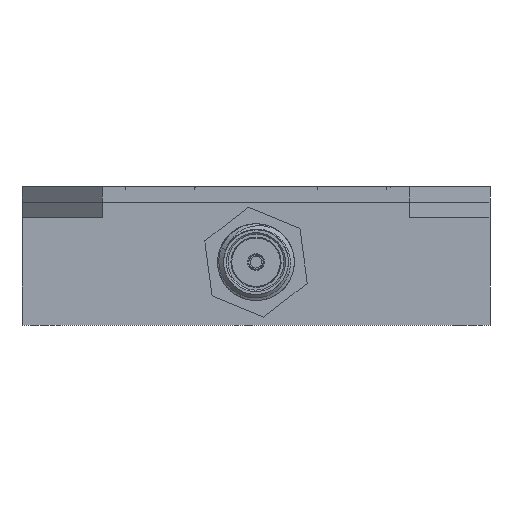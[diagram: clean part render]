
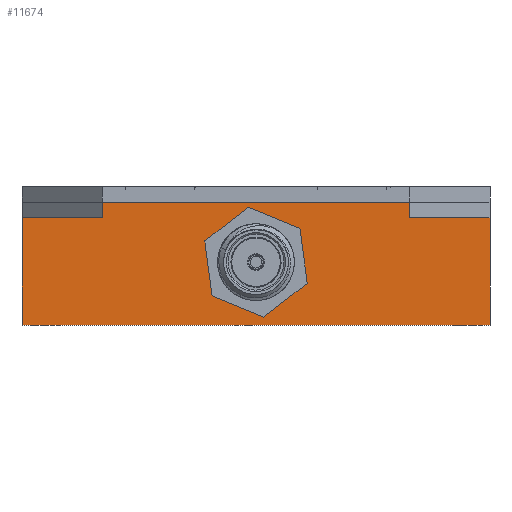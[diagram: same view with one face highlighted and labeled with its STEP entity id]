
A CAD part, left-side view. The second image highlights one B-rep face of the part: STEP entity #11674.
In plain terms, the highlighted planar face has unit normal (-1, 0, 0).
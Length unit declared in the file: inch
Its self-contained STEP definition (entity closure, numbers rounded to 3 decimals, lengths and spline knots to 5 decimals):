
#206 = CARTESIAN_POINT ( 'NONE',  ( -0.885, 0., 0.205 ) ) ;
#886 = DIRECTION ( 'NONE',  ( 0., -1., 0. ) ) ;
#1509 = DIRECTION ( 'NONE',  ( 0., 0., 1. ) ) ;
#1748 = ORIENTED_EDGE ( 'NONE', *, *, #22862, .F. ) ;
#1864 = ORIENTED_EDGE ( 'NONE', *, *, #2905, .T. ) ;
#2537 = FACE_BOUND ( 'NONE', #19027, .T. ) ;
#2669 = FACE_OUTER_BOUND ( 'NONE', #20624, .T. ) ;
#2905 = EDGE_CURVE ( 'NONE', #13190, #22566, #3629, .T. ) ;
#3161 = DIRECTION ( 'NONE',  ( 0., -1., 0. ) ) ;
#3510 = CARTESIAN_POINT ( 'NONE',  ( -0.885, 0., 0.09355 ) ) ;
#3629 = LINE ( 'NONE', #9424, #25242 ) ;
#4175 = VECTOR ( 'NONE', #7777, 39.37008 ) ;
#4185 = LINE ( 'NONE', #24370, #5677 ) ;
#4350 = ORIENTED_EDGE ( 'NONE', *, *, #5721, .F. ) ;
#4518 = EDGE_CURVE ( 'NONE', #17933, #12358, #13459, .T. ) ;
#4930 = CARTESIAN_POINT ( 'NONE',  ( -0.885, 0.76, 0.35 ) ) ;
#5677 = VECTOR ( 'NONE', #21983, 39.37008 ) ;
#5721 = EDGE_CURVE ( 'NONE', #19770, #12919, #7144, .T. ) ;
#5987 = CARTESIAN_POINT ( 'NONE',  ( -0.885, 0., 0.205 ) ) ;
#6062 = CARTESIAN_POINT ( 'NONE',  ( -0.885, -0.76, 0.4 ) ) ;
#6216 = ORIENTED_EDGE ( 'NONE', *, *, #8581, .F. ) ;
#6316 = VERTEX_POINT ( 'NONE', #15190 ) ;
#6449 = ORIENTED_EDGE ( 'NONE', *, *, #24345, .F. ) ;
#6557 = ORIENTED_EDGE ( 'NONE', *, *, #4518, .F. ) ;
#6770 = LINE ( 'NONE', #8613, #17762 ) ;
#7090 = ORIENTED_EDGE ( 'NONE', *, *, #14350, .F. ) ;
#7144 = LINE ( 'NONE', #17429, #15627 ) ;
#7278 = VECTOR ( 'NONE', #9099, 39.37008 ) ;
#7293 = ORIENTED_EDGE ( 'NONE', *, *, #15731, .F. ) ;
#7717 = ORIENTED_EDGE ( 'NONE', *, *, #19056, .T. ) ;
#7777 = DIRECTION ( 'NONE',  ( 0., 0., -1. ) ) ;
#8128 = VERTEX_POINT ( 'NONE', #4930 ) ;
#8581 = EDGE_CURVE ( 'NONE', #13190, #19426, #18854, .T. ) ;
#8613 = CARTESIAN_POINT ( 'NONE',  ( -0.885, 0.76, 0.4 ) ) ;
#8915 = CARTESIAN_POINT ( 'NONE',  ( -0.885, 0.76, 0.35 ) ) ;
#9099 = DIRECTION ( 'NONE',  ( 0., -1., 0. ) ) ;
#9424 = CARTESIAN_POINT ( 'NONE',  ( -0.885, -0.5, 0.35 ) ) ;
#9442 = EDGE_CURVE ( 'NONE', #9980, #6316, #4185, .T. ) ;
#9980 = VERTEX_POINT ( 'NONE', #25529 ) ;
#10542 = PLANE ( 'NONE',  #23465 ) ;
#11164 = VECTOR ( 'NONE', #886, 39.37008 ) ;
#11674 = ADVANCED_FACE ( 'NONE', ( #2537, #2669 ), #10542, .F. ) ;
#12008 = DIRECTION ( 'NONE',  ( -1., 0., 0. ) ) ;
#12160 = DIRECTION ( 'NONE',  ( 0., 0., -1. ) ) ;
#12358 = VERTEX_POINT ( 'NONE', #12571 ) ;
#12571 = CARTESIAN_POINT ( 'NONE',  ( -0.885, 0., 0.31645 ) ) ;
#12764 = CARTESIAN_POINT ( 'NONE',  ( -0.885, 0.5, 0.35 ) ) ;
#12858 = LINE ( 'NONE', #8915, #11164 ) ;
#12919 = VERTEX_POINT ( 'NONE', #21809 ) ;
#13043 = DIRECTION ( 'NONE',  ( 0., 0., -1. ) ) ;
#13154 = LINE ( 'NONE', #21215, #21112 ) ;
#13190 = VERTEX_POINT ( 'NONE', #24327 ) ;
#13459 = CIRCLE ( 'NONE', #17688, 0.11145 ) ;
#13819 = AXIS2_PLACEMENT_3D ( 'NONE', #206, #16544, #14423 ) ;
#14103 = CARTESIAN_POINT ( 'NONE',  ( -0.885, -0.76, 0.35 ) ) ;
#14350 = EDGE_CURVE ( 'NONE', #12919, #22566, #13154, .T. ) ;
#14423 = DIRECTION ( 'NONE',  ( 0., 0., 1. ) ) ;
#14639 = CARTESIAN_POINT ( 'NONE',  ( -0.885, -0.76, 0.35 ) ) ;
#15027 = DIRECTION ( 'NONE',  ( 1., 0., 0. ) ) ;
#15190 = CARTESIAN_POINT ( 'NONE',  ( -0.885, -0.76, 0. ) ) ;
#15627 = VECTOR ( 'NONE', #17818, 39.37008 ) ;
#15731 = EDGE_CURVE ( 'NONE', #12358, #17933, #25225, .T. ) ;
#16544 = DIRECTION ( 'NONE',  ( -1., 0., 0. ) ) ;
#17429 = CARTESIAN_POINT ( 'NONE',  ( -0.885, 0.5, 0.35 ) ) ;
#17688 = AXIS2_PLACEMENT_3D ( 'NONE', #5987, #12008, #20072 ) ;
#17762 = VECTOR ( 'NONE', #12160, 39.37008 ) ;
#17818 = DIRECTION ( 'NONE',  ( 0., 0., 1. ) ) ;
#17922 = LINE ( 'NONE', #6062, #4175 ) ;
#17933 = VERTEX_POINT ( 'NONE', #3510 ) ;
#18854 = LINE ( 'NONE', #14639, #7278 ) ;
#19027 = EDGE_LOOP ( 'NONE', ( #7293, #6557 ) ) ;
#19056 = EDGE_CURVE ( 'NONE', #8128, #9980, #6770, .T. ) ;
#19426 = VERTEX_POINT ( 'NONE', #14103 ) ;
#19770 = VERTEX_POINT ( 'NONE', #12764 ) ;
#20049 = ORIENTED_EDGE ( 'NONE', *, *, #9442, .T. ) ;
#20072 = DIRECTION ( 'NONE',  ( 0., 0., 1. ) ) ;
#20624 = EDGE_LOOP ( 'NONE', ( #7090, #4350, #6449, #7717, #20049, #1748, #6216, #1864 ) ) ;
#20833 = CARTESIAN_POINT ( 'NONE',  ( -0.885, 0.76, 0.4 ) ) ;
#21112 = VECTOR ( 'NONE', #3161, 39.37008 ) ;
#21215 = CARTESIAN_POINT ( 'NONE',  ( -0.885, 0.76, 0.4 ) ) ;
#21809 = CARTESIAN_POINT ( 'NONE',  ( -0.885, 0.5, 0.4 ) ) ;
#21983 = DIRECTION ( 'NONE',  ( 0., -1., 0. ) ) ;
#22566 = VERTEX_POINT ( 'NONE', #24569 ) ;
#22862 = EDGE_CURVE ( 'NONE', #19426, #6316, #17922, .T. ) ;
#23465 = AXIS2_PLACEMENT_3D ( 'NONE', #20833, #15027, #13043 ) ;
#24327 = CARTESIAN_POINT ( 'NONE',  ( -0.885, -0.5, 0.35 ) ) ;
#24345 = EDGE_CURVE ( 'NONE', #8128, #19770, #12858, .T. ) ;
#24370 = CARTESIAN_POINT ( 'NONE',  ( -0.885, 0.76, 0. ) ) ;
#24569 = CARTESIAN_POINT ( 'NONE',  ( -0.885, -0.5, 0.4 ) ) ;
#25225 = CIRCLE ( 'NONE', #13819, 0.11145 ) ;
#25242 = VECTOR ( 'NONE', #1509, 39.37008 ) ;
#25529 = CARTESIAN_POINT ( 'NONE',  ( -0.885, 0.76, 0. ) ) ;
